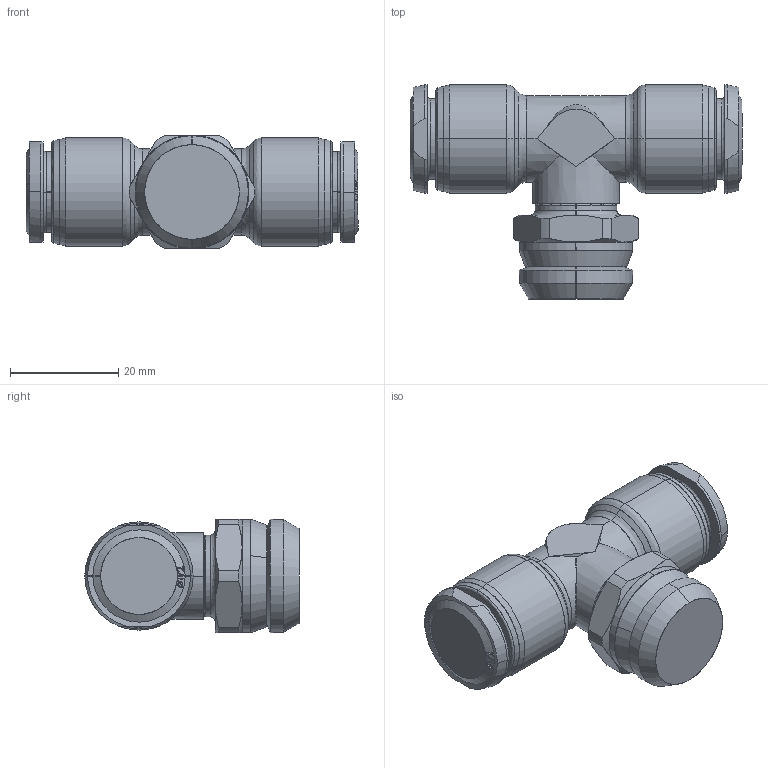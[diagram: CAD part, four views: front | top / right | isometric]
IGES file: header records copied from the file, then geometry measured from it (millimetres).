
Start section: SolidWorks IGES file using analytic representation for surfaces
Global section: file name: C:\Users\Cad01\Desktop\assiemi alfa\85210\8521100016A.igs; native system: SolidWorks 2012; preprocessor: SolidWorks 2012; author: Cad01; date: 121031.152305; units: millimetre
Bounding box: 61.4 x 39.6 x 21.03 mm (x, y, z)
Surface area: 6511.1 mm2 (no closed solid volume)
Topology: 0 solids, 0 shells, 228 faces, 2478 edges, 2478 vertices
Faces by surface type: bspline 141, revolution 87
